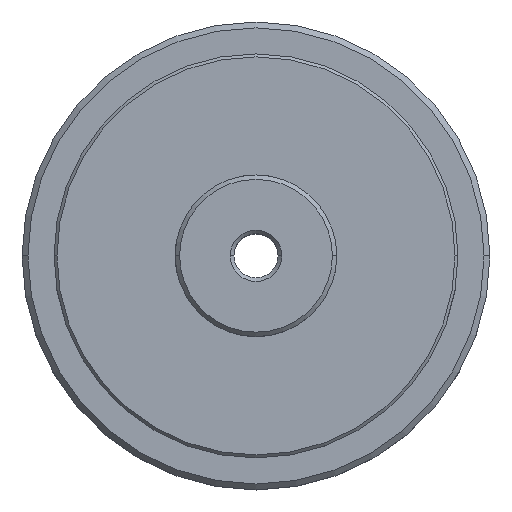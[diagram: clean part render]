
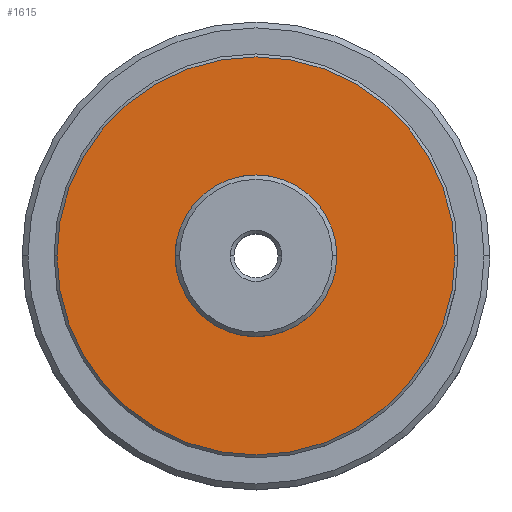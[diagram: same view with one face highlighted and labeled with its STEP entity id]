
A CAD part, top view. The second image highlights one B-rep face of the part: STEP entity #1615.
In plain terms, the highlighted planar face has unit normal (0, 0, 1).
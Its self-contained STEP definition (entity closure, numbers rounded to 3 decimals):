
#59 = VERTEX_POINT ( 'NONE', #2401 ) ;
#61 = ORIENTED_EDGE ( 'NONE', *, *, #1023, .T. ) ;
#74 = CIRCLE ( 'NONE', #2290, 27.1 ) ;
#85 = EDGE_CURVE ( 'NONE', #1592, #2669, #2180, .T. ) ;
#104 = CARTESIAN_POINT ( 'NONE',  ( 0., 0., 13.5 ) ) ;
#186 = VERTEX_POINT ( 'NONE', #564 ) ;
#218 = AXIS2_PLACEMENT_3D ( 'NONE', #2395, #3622, #885 ) ;
#328 = CARTESIAN_POINT ( 'NONE',  ( 0., 0., 13.5 ) ) ;
#346 = CIRCLE ( 'NONE', #846, 11. ) ;
#349 = CARTESIAN_POINT ( 'NONE',  ( 27.1, 0., 13.5 ) ) ;
#422 = ORIENTED_EDGE ( 'NONE', *, *, #1282, .F. ) ;
#493 = DIRECTION ( 'NONE',  ( 0., 0., 1. ) ) ;
#499 = EDGE_CURVE ( 'NONE', #59, #1592, #3419, .T. ) ;
#521 = VERTEX_POINT ( 'NONE', #1713 ) ;
#560 = ORIENTED_EDGE ( 'NONE', *, *, #1269, .F. ) ;
#564 = CARTESIAN_POINT ( 'NONE',  ( -27.1, 0., 13.5 ) ) ;
#591 = DIRECTION ( 'NONE',  ( 0., 0., 1. ) ) ;
#629 = FACE_OUTER_BOUND ( 'NONE', #2666, .T. ) ;
#631 = CARTESIAN_POINT ( 'NONE',  ( 0., 0., 13.5 ) ) ;
#706 = ORIENTED_EDGE ( 'NONE', *, *, #3701, .F. ) ;
#797 = CARTESIAN_POINT ( 'NONE',  ( 0., 0., 13.5 ) ) ;
#813 = CARTESIAN_POINT ( 'NONE',  ( 0., 0., 13.5 ) ) ;
#846 = AXIS2_PLACEMENT_3D ( 'NONE', #104, #1323, #2528 ) ;
#885 = DIRECTION ( 'NONE',  ( -1., 0., 0. ) ) ;
#934 = CIRCLE ( 'NONE', #3674, 11. ) ;
#1023 = EDGE_CURVE ( 'NONE', #1694, #186, #2957, .T. ) ;
#1182 = DIRECTION ( 'NONE',  ( -1., 0., 0. ) ) ;
#1258 = AXIS2_PLACEMENT_3D ( 'NONE', #813, #2029, #3243 ) ;
#1269 = EDGE_CURVE ( 'NONE', #2365, #3179, #934, .T. ) ;
#1282 = EDGE_CURVE ( 'NONE', #2669, #2365, #1926, .T. ) ;
#1323 = DIRECTION ( 'NONE',  ( 0., 0., 1. ) ) ;
#1350 = ORIENTED_EDGE ( 'NONE', *, *, #3932, .T. ) ;
#1545 = DIRECTION ( 'NONE',  ( 0., 0., 1. ) ) ;
#1592 = VERTEX_POINT ( 'NONE', #2441 ) ;
#1615 = ADVANCED_FACE ( 'NONE', ( #629, #1846 ), #3055, .T. ) ;
#1655 = AXIS2_PLACEMENT_3D ( 'NONE', #3220, #493, #1708 ) ;
#1680 = AXIS2_PLACEMENT_3D ( 'NONE', #797, #2012, #3226 ) ;
#1694 = VERTEX_POINT ( 'NONE', #349 ) ;
#1708 = DIRECTION ( 'NONE',  ( -1., 0., 0. ) ) ;
#1713 = CARTESIAN_POINT ( 'NONE',  ( -11., 0., 13.5 ) ) ;
#1807 = DIRECTION ( 'NONE',  ( -1., 0., 0. ) ) ;
#1846 = FACE_BOUND ( 'NONE', #1880, .T. ) ;
#1848 = DIRECTION ( 'NONE',  ( 0., 0., 1. ) ) ;
#1880 = EDGE_LOOP ( 'NONE', ( #560, #422, #3360, #2024, #3579, #706 ) ) ;
#1926 = CIRCLE ( 'NONE', #218, 11. ) ;
#1971 = AXIS2_PLACEMENT_3D ( 'NONE', #3321, #591, #1807 ) ;
#2012 = DIRECTION ( 'NONE',  ( 0., 0., 1. ) ) ;
#2024 = ORIENTED_EDGE ( 'NONE', *, *, #499, .F. ) ;
#2029 = DIRECTION ( 'NONE',  ( 0., 0., 1. ) ) ;
#2146 = CARTESIAN_POINT ( 'NONE',  ( 11., 0., 13.5 ) ) ;
#2180 = CIRCLE ( 'NONE', #1655, 11. ) ;
#2193 = AXIS2_PLACEMENT_3D ( 'NONE', #328, #1545, #2751 ) ;
#2290 = AXIS2_PLACEMENT_3D ( 'NONE', #631, #1848, #3058 ) ;
#2312 = EDGE_CURVE ( 'NONE', #521, #59, #346, .T. ) ;
#2365 = VERTEX_POINT ( 'NONE', #3463 ) ;
#2395 = CARTESIAN_POINT ( 'NONE',  ( 0., 0., 13.5 ) ) ;
#2401 = CARTESIAN_POINT ( 'NONE',  ( -11., 0., 13.5 ) ) ;
#2441 = CARTESIAN_POINT ( 'NONE',  ( -11., 0., 13.5 ) ) ;
#2528 = DIRECTION ( 'NONE',  ( -1., 0., 0. ) ) ;
#2666 = EDGE_LOOP ( 'NONE', ( #1350, #61 ) ) ;
#2669 = VERTEX_POINT ( 'NONE', #3590 ) ;
#2683 = CARTESIAN_POINT ( 'NONE',  ( 0., 0., 13.5 ) ) ;
#2751 = DIRECTION ( 'NONE',  ( 1., 0., 0. ) ) ;
#2957 = CIRCLE ( 'NONE', #1258, 27.1 ) ;
#3055 = PLANE ( 'NONE',  #2193 ) ;
#3058 = DIRECTION ( 'NONE',  ( 1., 0., 0. ) ) ;
#3179 = VERTEX_POINT ( 'NONE', #2146 ) ;
#3220 = CARTESIAN_POINT ( 'NONE',  ( 0., 0., 13.5 ) ) ;
#3226 = DIRECTION ( 'NONE',  ( -1., 0., 0. ) ) ;
#3243 = DIRECTION ( 'NONE',  ( 1., 0., 0. ) ) ;
#3321 = CARTESIAN_POINT ( 'NONE',  ( 0., 0., 13.5 ) ) ;
#3360 = ORIENTED_EDGE ( 'NONE', *, *, #85, .F. ) ;
#3419 = CIRCLE ( 'NONE', #1680, 11. ) ;
#3463 = CARTESIAN_POINT ( 'NONE',  ( 11., 0., 13.5 ) ) ;
#3579 = ORIENTED_EDGE ( 'NONE', *, *, #2312, .F. ) ;
#3590 = CARTESIAN_POINT ( 'NONE',  ( 11., 0., 13.5 ) ) ;
#3622 = DIRECTION ( 'NONE',  ( 0., 0., 1. ) ) ;
#3674 = AXIS2_PLACEMENT_3D ( 'NONE', #2683, #3922, #1182 ) ;
#3701 = EDGE_CURVE ( 'NONE', #3179, #521, #3717, .T. ) ;
#3717 = CIRCLE ( 'NONE', #1971, 11. ) ;
#3922 = DIRECTION ( 'NONE',  ( 0., 0., 1. ) ) ;
#3932 = EDGE_CURVE ( 'NONE', #186, #1694, #74, .T. ) ;
